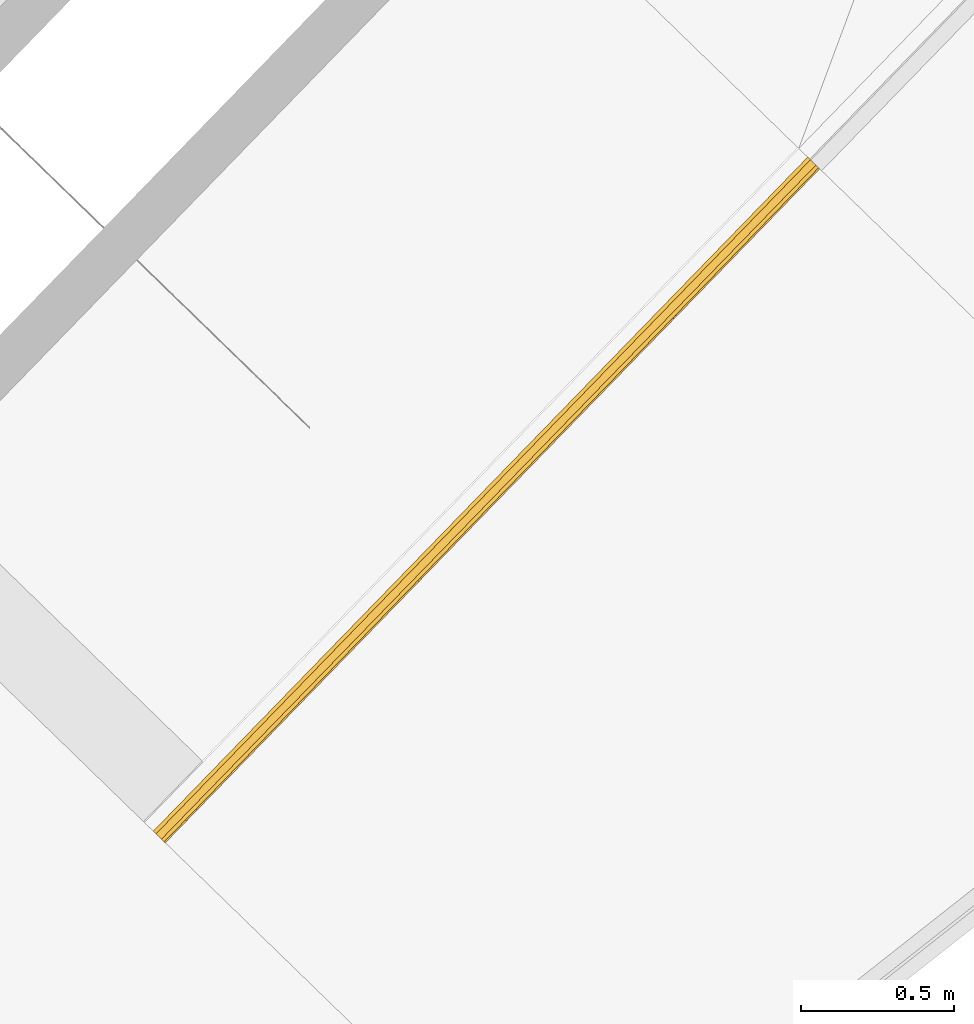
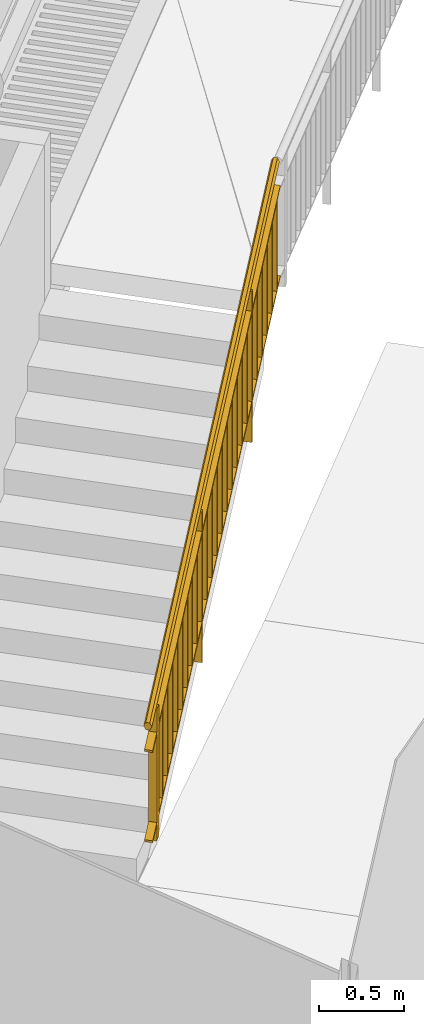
# One storey, part 29 of 37: 1 railing, 1 element without a shape of its own.
"""IFC2X3 building model written with IfcOpenShell, lengths in centimetres."""

from ifc_helpers import new_model, entity, si_unit, converted_unit, derived_unit, direction, frame, origin, place, context, subcontext, project, spatial, faceted_brep, material, element, aggregate, save


model = new_model("IFC2X3")

# Units and contexts
model_context = context("Model", 3, precision=0.001, world=origin(), true_north=direction((0.717475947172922, 0.696583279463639)))
body_context = subcontext(model_context, "Body", "Model", "MODEL_VIEW")
ifc_project = project(units=[si_unit("LENGTHUNIT", "METRE", prefix="CENTI"), si_unit("AREAUNIT", "SQUARE_METRE"), si_unit("VOLUMEUNIT", "CUBIC_METRE"), converted_unit("PLANEANGLEUNIT", "DEGREE", entity("IfcRatioMeasure", 0.0174532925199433), si_unit("PLANEANGLEUNIT", "RADIAN"), dimensions=[0, 0, 0, 0, 0, 0, 0]), si_unit("MASSUNIT", "GRAM", prefix="KILO"), derived_unit("MASSDENSITYUNIT", [(si_unit("MASSUNIT", "GRAM", prefix="KILO"), 1), (si_unit("LENGTHUNIT", "METRE"), -3)]), si_unit("TIMEUNIT", "SECOND"), si_unit("FREQUENCYUNIT", "HERTZ"), si_unit("THERMODYNAMICTEMPERATUREUNIT", "DEGREE_CELSIUS"), derived_unit("THERMALTRANSMITTANCEUNIT", [(si_unit("MASSUNIT", "GRAM", prefix="KILO"), 1), (si_unit("THERMODYNAMICTEMPERATUREUNIT", "KELVIN"), -1), (si_unit("TIMEUNIT", "SECOND"), -3)]), derived_unit("VOLUMETRICFLOWRATEUNIT", [(si_unit("LENGTHUNIT", "METRE"), 3), (si_unit("TIMEUNIT", "SECOND"), -1)]), si_unit("ELECTRICCURRENTUNIT", "AMPERE"), si_unit("ELECTRICVOLTAGEUNIT", "VOLT"), si_unit("POWERUNIT", "WATT"), si_unit("FORCEUNIT", "NEWTON", prefix="KILO"), si_unit("ILLUMINANCEUNIT", "LUX"), si_unit("LUMINOUSFLUXUNIT", "LUMEN"), si_unit("LUMINOUSINTENSITYUNIT", "CANDELA"), derived_unit("USERDEFINED", [(si_unit("MASSUNIT", "GRAM", prefix="KILO"), -1), (si_unit("LENGTHUNIT", "METRE"), -2), (si_unit("TIMEUNIT", "SECOND"), 3), (si_unit("LUMINOUSFLUXUNIT", "LUMEN"), 1)]), derived_unit("LINEARVELOCITYUNIT", [(si_unit("LENGTHUNIT", "METRE"), 1), (si_unit("TIMEUNIT", "SECOND"), -1)]), si_unit("PRESSUREUNIT", "PASCAL"), derived_unit("USERDEFINED", [(si_unit("LENGTHUNIT", "METRE"), -2), (si_unit("MASSUNIT", "GRAM", prefix="KILO"), 1), (si_unit("TIMEUNIT", "SECOND"), -2)])], contexts=[model_context])

# Site, building, storey
site_placement = place(None, frame((0.0, 0.0, 0.0), z_axis=(0.0, 0.0, 1.0), x_axis=(0.696583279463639, 0.717475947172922, 0.0)))
site = spatial("IfcSite", under=ifc_project, at=site_placement, Name="Surface", CompositionType="ELEMENT")
building_placement = place(site_placement, origin())
building = spatial("IfcBuilding", under=site, at=building_placement, CompositionType="ELEMENT")
storey_placement = place(building_placement, origin())
storey = spatial("IfcBuildingStorey", under=building, at=storey_placement, Name="Nivel 0.00", CompositionType="ELEMENT", Elevation=0.0)

# Stair, railing
stair_placement = place(storey_placement, origin())
stair = element("IfcStair", 1, at=stair_placement, inside=storey, Name="Cast-In-Place Stair:Stair", ObjectType="Cast-In-Place Stair:Monolithic Stair", ShapeType="NOTDEFINED")
ifc_material = material(Name="Aluminum")
railing_placement = place(stair_placement, frame((-2213.75711159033, -1574.89941239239, -39.9642857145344)))
railing = element("IfcRailing", 2, at=railing_placement, material=ifc_material, Name="Railing:BARANDA_RAMPA_1000mm", ObjectType="Railing:BARANDA_RAMPA_1000mm", PredefinedType="NOTDEFINED", context=body_context, shape_type="Brep", body=[
    faceted_brep([(300.600000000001, 5.0, 200.207142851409), (299.400000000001, 5.0, 199.435714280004), (299.400000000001, 5.0, 263.235714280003), (300.600000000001, 5.0, 264.007142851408), (300.600000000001, 0.0, 200.207142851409), (300.600000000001, 0.0, 264.007142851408), (299.400000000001, 0.0, 263.235714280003), (299.400000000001, 0.0, 199.435714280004)], [[[0, 1, 2, 3]], [[4, 5, 6, 7]], [[1, 0, 4, 7]], [[2, 1, 7, 6]], [[3, 2, 6, 5]], [[0, 3, 5, 4]]]),
    faceted_brep([(288.600000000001, 5.0, 192.492857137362), (287.400000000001, 5.0, 191.721428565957), (287.400000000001, 5.0, 255.521428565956), (288.600000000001, 5.0, 256.292857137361), (288.600000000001, 0.0, 192.492857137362), (288.600000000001, 0.0, 256.292857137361), (287.400000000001, 0.0, 255.521428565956), (287.400000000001, 0.0, 191.721428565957)], [[[0, 1, 2, 3]], [[4, 5, 6, 7]], [[1, 0, 4, 7]], [[2, 1, 7, 6]], [[3, 2, 6, 5]], [[0, 3, 5, 4]]]),
    faceted_brep([(276.600000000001, 5.0, 184.778571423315), (275.400000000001, 5.0, 184.00714285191), (275.400000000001, 5.0, 247.80714285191), (276.600000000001, 5.0, 248.578571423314), (276.600000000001, 0.0, 184.778571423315), (276.600000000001, 0.0, 248.578571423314), (275.400000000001, 0.0, 247.80714285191), (275.400000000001, 0.0, 184.00714285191)], [[[0, 1, 2, 3]], [[4, 5, 6, 7]], [[1, 0, 4, 7]], [[2, 1, 7, 6]], [[3, 2, 6, 5]], [[0, 3, 5, 4]]]),
    faceted_brep([(264.600000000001, 5.0, 177.064285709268), (263.400000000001, 5.0, 176.292857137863), (263.400000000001, 5.0, 240.092857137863), (264.600000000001, 5.0, 240.864285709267), (264.600000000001, 0.0, 177.064285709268), (264.600000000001, 0.0, 240.864285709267), (263.400000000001, 0.0, 240.092857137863), (263.400000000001, 0.0, 176.292857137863)], [[[0, 1, 2, 3]], [[4, 5, 6, 7]], [[1, 0, 4, 7]], [[2, 1, 7, 6]], [[3, 2, 6, 5]], [[0, 3, 5, 4]]]),
    faceted_brep([(252.600000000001, 5.0, 169.349999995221), (251.4, 5.0, 168.578571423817), (251.4, 5.0, 232.378571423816), (252.600000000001, 5.0, 233.14999999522), (252.600000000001, 0.0, 169.349999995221), (252.600000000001, 0.0, 233.14999999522), (251.4, 0.0, 232.378571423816), (251.4, 0.0, 168.578571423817)], [[[0, 1, 2, 3]], [[4, 5, 6, 7]], [[1, 0, 4, 7]], [[2, 1, 7, 6]], [[3, 2, 6, 5]], [[0, 3, 5, 4]]]),
    faceted_brep([(240.600000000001, 5.0, 131.249999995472), (239.400000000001, 5.0, 131.249999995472), (239.400000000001, 5.0, 239.920243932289), (240.600000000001, 5.0, 240.691672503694), (240.600000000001, 0.0, 131.249999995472), (240.600000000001, 0.0, 240.691672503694), (239.400000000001, 0.0, 239.920243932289), (239.400000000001, 0.0, 131.249999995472)], [[[0, 1, 2, 3]], [[4, 5, 6, 7]], [[1, 0, 4, 7]], [[2, 1, 7, 6]], [[3, 2, 6, 5]], [[0, 3, 5, 4]]]),
    faceted_brep([(228.600000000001, 5.0, 153.921428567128), (227.400000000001, 5.0, 153.149999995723), (227.400000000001, 5.0, 216.949999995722), (228.600000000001, 5.0, 217.721428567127), (228.600000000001, 0.0, 153.921428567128), (228.600000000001, 0.0, 217.721428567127), (227.400000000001, 0.0, 216.949999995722), (227.400000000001, 0.0, 153.149999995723)], [[[0, 1, 2, 3]], [[4, 5, 6, 7]], [[1, 0, 4, 7]], [[2, 1, 7, 6]], [[3, 2, 6, 5]], [[0, 3, 5, 4]]]),
    faceted_brep([(216.600000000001, 5.0, 146.207142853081), (215.4, 5.0, 145.435714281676), (215.4, 5.0, 209.235714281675), (216.600000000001, 5.0, 210.00714285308), (216.600000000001, 0.0, 146.207142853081), (216.600000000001, 0.0, 210.00714285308), (215.4, 0.0, 209.235714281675), (215.4, 0.0, 145.435714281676)], [[[0, 1, 2, 3]], [[4, 5, 6, 7]], [[1, 0, 4, 7]], [[2, 1, 7, 6]], [[3, 2, 6, 5]], [[0, 3, 5, 4]]]),
    faceted_brep([(204.600000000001, 5.0, 138.492857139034), (203.400000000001, 5.0, 137.721428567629), (203.400000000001, 5.0, 201.521428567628), (204.600000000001, 5.0, 202.292857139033), (204.600000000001, 0.0, 138.492857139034), (204.600000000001, 0.0, 202.292857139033), (203.400000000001, 0.0, 201.521428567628), (203.400000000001, 0.0, 137.721428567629)], [[[0, 1, 2, 3]], [[4, 5, 6, 7]], [[1, 0, 4, 7]], [[2, 1, 7, 6]], [[3, 2, 6, 5]], [[0, 3, 5, 4]]]),
    faceted_brep([(192.600000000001, 5.0, 130.778571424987), (191.400000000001, 5.0, 130.007142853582), (191.400000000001, 5.0, 193.807142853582), (192.600000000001, 5.0, 194.578571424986), (192.600000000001, 0.0, 130.778571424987), (192.600000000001, 0.0, 194.578571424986), (191.400000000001, 0.0, 193.807142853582), (191.400000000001, 0.0, 130.007142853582)], [[[0, 1, 2, 3]], [[4, 5, 6, 7]], [[1, 0, 4, 7]], [[2, 1, 7, 6]], [[3, 2, 6, 5]], [[0, 3, 5, 4]]]),
    faceted_brep([(180.600000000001, 5.0, 123.06428571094), (179.4, 5.0, 122.292857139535), (179.4, 5.0, 186.092857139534), (180.600000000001, 5.0, 186.864285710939), (180.600000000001, 0.0, 123.06428571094), (180.600000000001, 0.0, 186.864285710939), (179.4, 0.0, 186.092857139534), (179.4, 0.0, 122.292857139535)], [[[0, 1, 2, 3]], [[4, 5, 6, 7]], [[1, 0, 4, 7]], [[2, 1, 7, 6]], [[3, 2, 6, 5]], [[0, 3, 5, 4]]]),
    faceted_brep([(168.600000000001, 5.0, 115.349999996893), (167.4, 5.0, 114.578571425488), (167.4, 5.0, 178.378571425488), (168.600000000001, 5.0, 179.149999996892), (168.600000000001, 0.0, 115.349999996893), (168.600000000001, 0.0, 179.149999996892), (167.4, 0.0, 178.378571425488), (167.4, 0.0, 114.578571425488)], [[[0, 1, 2, 3]], [[4, 5, 6, 7]], [[1, 0, 4, 7]], [[2, 1, 7, 6]], [[3, 2, 6, 5]], [[0, 3, 5, 4]]]),
    faceted_brep([(156.600000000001, 5.0, 107.635714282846), (155.400000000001, 5.0, 106.864285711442), (155.400000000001, 5.0, 170.664285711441), (156.600000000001, 5.0, 171.435714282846), (156.600000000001, 0.0, 107.635714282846), (156.600000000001, 0.0, 171.435714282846), (155.400000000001, 0.0, 170.664285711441), (155.400000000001, 0.0, 106.864285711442)], [[[0, 1, 2, 3]], [[4, 5, 6, 7]], [[1, 0, 4, 7]], [[2, 1, 7, 6]], [[3, 2, 6, 5]], [[0, 3, 5, 4]]]),
    faceted_brep([(144.600000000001, 5.0, 99.9214285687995), (143.400000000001, 5.0, 99.1499999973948), (143.400000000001, 5.0, 162.949999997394), (144.600000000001, 5.0, 163.721428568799), (144.600000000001, 0.0, 99.9214285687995), (144.600000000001, 0.0, 163.721428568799), (143.400000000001, 0.0, 162.949999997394), (143.400000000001, 0.0, 99.1499999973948)], [[[0, 1, 2, 3]], [[4, 5, 6, 7]], [[1, 0, 4, 7]], [[2, 1, 7, 6]], [[3, 2, 6, 5]], [[0, 3, 5, 4]]]),
    faceted_brep([(132.600000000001, 5.0, 92.2071428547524), (131.4, 5.0, 91.4357142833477), (131.4, 5.0, 155.235714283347), (132.600000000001, 5.0, 156.007142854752), (132.600000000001, 0.0, 92.2071428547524), (132.600000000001, 0.0, 156.007142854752), (131.4, 0.0, 155.235714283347), (131.4, 0.0, 91.4357142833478)], [[[0, 1, 2, 3]], [[4, 5, 6, 7]], [[1, 0, 4, 7]], [[2, 1, 7, 6]], [[3, 2, 6, 5]], [[0, 3, 5, 4]]]),
    faceted_brep([(120.600000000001, 5.0, 54.1071428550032), (119.400000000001, 5.0, 54.1071428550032), (119.400000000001, 5.0, 162.77738679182), (120.600000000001, 5.0, 163.548815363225), (120.600000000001, 0.0, 54.1071428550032), (120.600000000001, 0.0, 163.548815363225), (119.400000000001, 0.0, 162.77738679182), (119.400000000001, 0.0, 54.1071428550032)], [[[0, 1, 2, 3]], [[4, 5, 6, 7]], [[1, 0, 4, 7]], [[2, 1, 7, 6]], [[3, 2, 6, 5]], [[0, 3, 5, 4]]]),
    faceted_brep([(108.600000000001, 5.0, 76.7785714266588), (107.400000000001, 5.0, 76.0071428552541), (107.400000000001, 5.0, 139.807142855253), (108.600000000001, 5.0, 140.578571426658), (108.600000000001, 0.0, 76.7785714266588), (108.600000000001, 0.0, 140.578571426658), (107.400000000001, 0.0, 139.807142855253), (107.400000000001, 0.0, 76.0071428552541)], [[[0, 1, 2, 3]], [[4, 5, 6, 7]], [[1, 0, 4, 7]], [[2, 1, 7, 6]], [[3, 2, 6, 5]], [[0, 3, 5, 4]]]),
    faceted_brep([(96.6000000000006, 5.0, 69.0642857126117), (95.4000000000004, 5.0, 68.292857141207), (95.4000000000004, 5.0, 132.092857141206), (96.6000000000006, 5.0, 132.864285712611), (96.6000000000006, 0.0, 69.0642857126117), (96.6000000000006, 0.0, 132.864285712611), (95.4000000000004, 0.0, 132.092857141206), (95.4000000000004, 0.0, 68.2928571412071)], [[[0, 1, 2, 3]], [[4, 5, 6, 7]], [[1, 0, 4, 7]], [[2, 1, 7, 6]], [[3, 2, 6, 5]], [[0, 3, 5, 4]]]),
    faceted_brep([(84.6000000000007, 5.0, 61.3499999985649), (83.4000000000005, 5.0, 60.5785714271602), (83.4000000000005, 5.0, 124.37857142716), (84.6000000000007, 5.0, 125.149999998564), (84.6000000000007, 0.0, 61.349999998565), (84.6000000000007, 0.0, 125.149999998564), (83.4000000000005, 0.0, 124.37857142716), (83.4000000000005, 0.0, 60.5785714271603)], [[[0, 1, 2, 3]], [[4, 5, 6, 7]], [[1, 0, 4, 7]], [[2, 1, 7, 6]], [[3, 2, 6, 5]], [[0, 3, 5, 4]]]),
    faceted_brep([(72.6000000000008, 5.0, 53.6357142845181), (71.4000000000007, 5.0, 52.8642857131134), (71.4000000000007, 5.0, 116.664285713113), (72.6000000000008, 5.0, 117.435714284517), (72.6000000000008, 0.0, 53.6357142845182), (72.6000000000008, 0.0, 117.435714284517), (71.4000000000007, 0.0, 116.664285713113), (71.4000000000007, 0.0, 52.8642857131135)], [[[0, 1, 2, 3]], [[4, 5, 6, 7]], [[1, 0, 4, 7]], [[2, 1, 7, 6]], [[3, 2, 6, 5]], [[0, 3, 5, 4]]]),
    faceted_brep([(60.6000000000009, 5.0, 45.9214285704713), (59.4000000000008, 5.0, 45.1499999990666), (59.4000000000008, 5.0, 108.949999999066), (60.6000000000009, 5.0, 109.721428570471), (60.6000000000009, 0.0, 45.9214285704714), (60.6000000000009, 0.0, 109.721428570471), (59.4000000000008, 0.0, 108.949999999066), (59.4000000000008, 0.0, 45.1499999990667)], [[[0, 1, 2, 3]], [[4, 5, 6, 7]], [[1, 0, 4, 7]], [[2, 1, 7, 6]], [[3, 2, 6, 5]], [[0, 3, 5, 4]]]),
    faceted_brep([(48.6000000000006, 5.0, 38.2071428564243), (47.4000000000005, 5.0, 37.4357142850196), (47.4000000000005, 5.0, 101.235714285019), (48.6000000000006, 5.0, 102.007142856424), (48.6000000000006, 0.0, 38.2071428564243), (48.6000000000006, 0.0, 102.007142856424), (47.4000000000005, 0.0, 101.235714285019), (47.4000000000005, 0.0, 37.4357142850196)], [[[0, 1, 2, 3]], [[4, 5, 6, 7]], [[1, 0, 4, 7]], [[2, 1, 7, 6]], [[3, 2, 6, 5]], [[0, 3, 5, 4]]]),
    faceted_brep([(36.6000000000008, 5.0, 30.4928571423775), (35.4000000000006, 5.0, 29.7214285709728), (35.4000000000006, 5.0, 93.5214285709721), (36.6000000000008, 5.0, 94.2928571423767), (36.6000000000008, 0.0, 30.4928571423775), (36.6000000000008, 0.0, 94.2928571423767), (35.4000000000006, 0.0, 93.5214285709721), (35.4000000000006, 0.0, 29.7214285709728)], [[[0, 1, 2, 3]], [[4, 5, 6, 7]], [[1, 0, 4, 7]], [[2, 1, 7, 6]], [[3, 2, 6, 5]], [[0, 3, 5, 4]]]),
    faceted_brep([(24.6000000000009, 5.0, 22.7785714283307), (23.4000000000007, 5.0, 22.007142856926), (23.4000000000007, 5.0, 85.8071428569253), (24.6000000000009, 5.0, 86.5785714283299), (24.6000000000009, 0.0, 22.7785714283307), (24.6000000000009, 0.0, 86.5785714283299), (23.4000000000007, 0.0, 85.8071428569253), (23.4000000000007, 0.0, 22.007142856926)], [[[0, 1, 2, 3]], [[4, 5, 6, 7]], [[1, 0, 4, 7]], [[2, 1, 7, 6]], [[3, 2, 6, 5]], [[0, 3, 5, 4]]]),
    faceted_brep([(12.6000000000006, 5.0, 15.0642857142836), (11.4000000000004, 5.0, 14.2928571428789), (11.4000000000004, 5.0, 78.0928571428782), (12.6000000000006, 5.0, 78.8642857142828), (12.6000000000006, 0.0, 15.0642857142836), (12.6000000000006, 0.0, 78.8642857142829), (11.4000000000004, 0.0, 78.0928571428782), (11.4000000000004, 0.0, 14.2928571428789)], [[[0, 1, 2, 3]], [[4, 5, 6, 7]], [[1, 0, 4, 7]], [[2, 1, 7, 6]], [[3, 2, 6, 5]], [[0, 3, 5, 4]]]),
    faceted_brep([(10.0, 5.0, 95.0), (10.0, 0.0, 95.0), (15.0, 0.0, 95.0), (15.0, 5.0, 95.0), (10.0, 5.0, 0.0), (15.0, 5.0, 0.0), (15.0, 0.0, 0.0), (10.0, 0.0, 0.0)], [[[0, 1, 2, 3]], [[4, 5, 6, 7]], [[1, 0, 4, 7]], [[2, 1, 7, 6]], [[3, 2, 6, 5]], [[0, 3, 5, 4]]]),
    faceted_brep([(0.0, 0.0, 71.9642857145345), (0.0, 5.0, 71.9642857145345), (0.0, 5.0, 70.5377156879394), (0.0, 0.0, 70.5377156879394), (308.0, 0.0, 269.964285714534), (308.0, 0.0, 268.537715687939), (308.0, 5.0, 268.537715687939), (308.0, 5.0, 269.964285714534)], [[[0, 1, 2, 3]], [[4, 5, 6, 7]], [[1, 0, 4, 7]], [[2, 1, 7, 6]], [[3, 2, 6, 5]], [[0, 3, 5, 4]]]),
    faceted_brep([(0.0, 0.0, 6.96428571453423), (0.0, 5.0, 6.96428571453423), (0.0, 5.0, 5.5377156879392), (0.0, 0.0, 5.5377156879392), (308.0, 0.0, 204.964285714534), (308.0, 0.0, 203.537715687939), (308.0, 5.0, 203.537715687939), (308.0, 5.0, 204.964285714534)], [[[0, 1, 2, 3]], [[4, 5, 6, 7]], [[1, 0, 4, 7]], [[2, 1, 7, 6]], [[3, 2, 6, 5]], [[0, 3, 5, 4]]]),
    faceted_brep([(0.0, 5.50000000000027, 88.9922648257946), (0.0, 5.18351637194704, 88.3406008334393), (0.0, 4.87500000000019, 87.7053420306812), (0.0, 4.56250000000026, 87.0618806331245), (0.0, 4.25000000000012, 86.4184192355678), (0.0, 3.62500000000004, 86.4184192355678), (0.0, 3.0, 86.4184192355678), (0.0, 2.37500000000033, 86.4184192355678), (0.0, 1.75000000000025, 86.4184192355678), (0.0, 1.43750000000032, 87.0618806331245), (0.0, 1.12500000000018, 87.7053420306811), (0.0, 0.812500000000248, 88.3488034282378), (0.0, 0.500000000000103, 88.9922648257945), (0.0, 0.816483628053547, 89.6439288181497), (0.0, 1.13296725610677, 90.295592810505), (0.0, 1.44148362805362, 90.9308516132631), (0.0, 1.75000000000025, 91.5661104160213), (0.0, 2.37500000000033, 91.5661104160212), (0.0, 3.0, 91.5661104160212), (0.0, 3.62500000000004, 91.5661104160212), (0.0, 4.25000000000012, 91.5661104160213), (0.0, 4.56250000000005, 90.9226490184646), (0.0, 4.87500000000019, 90.2791876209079), (0.0, 5.18351637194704, 89.6439288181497), (308.0, 5.50000000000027, 286.992264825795), (308.0, 5.18750000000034, 287.635726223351), (308.0, 4.87500000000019, 288.279187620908), (308.0, 4.56250000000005, 288.922649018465), (308.0, 4.25000000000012, 289.566110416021), (308.0, 3.62500000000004, 289.566110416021), (308.0, 3.0, 289.566110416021), (308.0, 2.37500000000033, 289.566110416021), (308.0, 1.75000000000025, 289.566110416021), (308.0, 1.43750000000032, 288.922649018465), (308.0, 1.12500000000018, 288.279187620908), (308.0, 0.81648362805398, 287.643928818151), (308.0, 0.500000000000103, 286.992264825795), (308.0, 0.816483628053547, 286.340600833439), (308.0, 1.12500000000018, 285.705342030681), (308.0, 1.43750000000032, 285.061880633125), (308.0, 1.75000000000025, 284.418419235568), (308.0, 2.37500000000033, 284.418419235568), (308.0, 3.0, 284.418419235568), (308.0, 3.62500000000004, 284.418419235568), (308.0, 4.25000000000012, 284.418419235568), (308.0, 4.55851637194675, 285.053678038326), (308.0, 4.86703274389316, 285.688936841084), (308.0, 5.18351637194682, 286.340600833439)], [[[0, 1, 2, 3, 4, 5, 6, 7, 8, 9, 10, 11, 12, 13, 14, 15, 16, 17, 18, 19, 20, 21, 22, 23]], [[24, 25, 26, 27, 28, 29, 30, 31, 32, 33, 34, 35, 36, 37, 38, 39, 40, 41, 42, 43, 44, 45, 46, 47]], [[29, 28, 20, 19, 18, 17, 16, 32, 31, 30]], [[22, 21, 20, 28, 27, 26, 25, 24, 0, 23]], [[34, 33, 32, 16, 15, 14, 13, 12, 36, 35]], [[4, 3, 2, 1, 0, 24, 47, 46, 45, 44]], [[41, 40, 8, 7, 6, 5, 4, 44, 43, 42]], [[36, 12, 11, 10, 9, 8, 40, 39, 38, 37]]]),
])
aggregate(stair, [railing])

save(model, "model.ifc")
